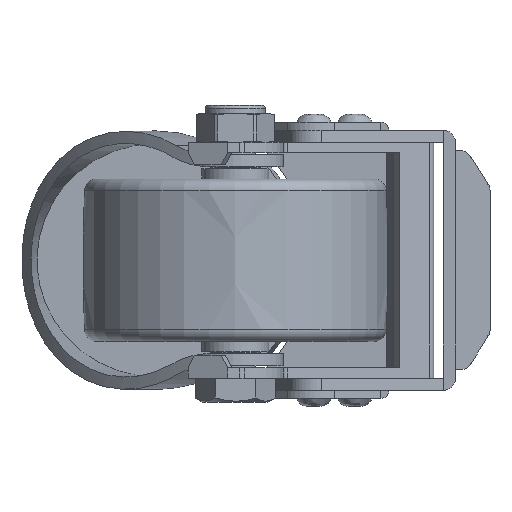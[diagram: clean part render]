
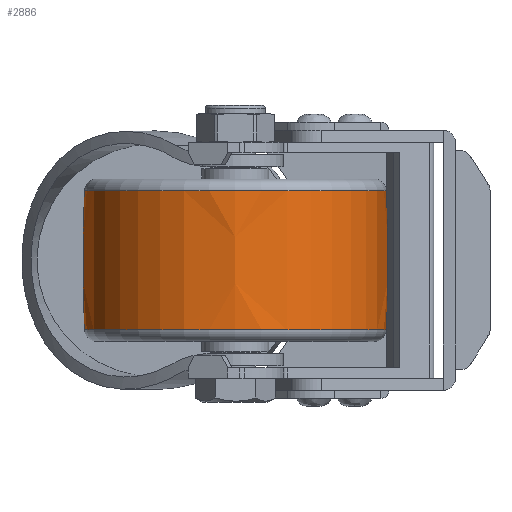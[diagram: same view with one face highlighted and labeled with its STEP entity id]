
A CAD part, front view. The second image highlights one B-rep face of the part: STEP entity #2886.
In plain terms, the highlighted free-form (B-spline) face has degree [3, 3] with [7, 4] control points.
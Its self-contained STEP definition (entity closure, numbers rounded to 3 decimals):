
#2654=CARTESIAN_POINT('',(0.,-362.75,0.));
#2655=DIRECTION('',(0.,0.,1.));
#2656=DIRECTION('',(0.043,0.999,0.));
#2657=AXIS2_PLACEMENT_3D('',#2654,#2655,#2656);
#2659=CARTESIAN_POINT('',(0.,362.75,0.));
#2660=DIRECTION('',(0.,0.,-1.));
#2661=DIRECTION('',(0.043,-0.999,0.));
#2662=AXIS2_PLACEMENT_3D('',#2659,#2660,#2661);
#2664=CARTESIAN_POINT('',(17.128,0.,0.));
#2665=DIRECTION('',(-1.,0.,0.));
#2666=DIRECTION('',(0.,1.,0.));
#2667=AXIS2_PLACEMENT_3D('',#2664,#2665,#2666);
#2689=CARTESIAN_POINT('',(-17.128,0.,0.));
#2690=DIRECTION('',(-1.,0.,0.));
#2691=DIRECTION('',(0.,1.,0.));
#2692=AXIS2_PLACEMENT_3D('',#2689,#2690,#2691);
#2747=CARTESIAN_POINT('',(17.128,37.133,0.));
#2749=VERTEX_POINT('',#2747);
#2750=CARTESIAN_POINT('',(-17.128,37.133,0.));
#2751=VERTEX_POINT('',#2750);
#2763=CARTESIAN_POINT('',(17.128,-37.133,0.));
#2765=VERTEX_POINT('',#2763);
#2766=CARTESIAN_POINT('',(-17.128,-37.133,0.));
#2767=VERTEX_POINT('',#2766);
#2848=CARTESIAN_POINT('',(-17.813,-37.03,
2.33));
#2849=CARTESIAN_POINT('',(-5.942,-37.558,
2.363));
#2850=CARTESIAN_POINT('',(5.942,-37.558,2.363));
#2851=CARTESIAN_POINT('',(17.813,-37.03,2.33));
#2852=CARTESIAN_POINT('',(-17.813,-38.464,
-20.459));
#2853=CARTESIAN_POINT('',(-5.942,-39.012,
-20.75));
#2854=CARTESIAN_POINT('',(5.942,-39.012,
-20.75));
#2855=CARTESIAN_POINT('',(17.813,-38.464,
-20.459));
#2856=CARTESIAN_POINT('',(-17.813,-22.833,
-37.103));
#2857=CARTESIAN_POINT('',(-5.942,-23.159,
-37.632));
#2858=CARTESIAN_POINT('',(5.942,-23.159,
-37.632));
#2859=CARTESIAN_POINT('',(17.813,-22.833,
-37.103));
#2860=CARTESIAN_POINT('',(-17.813,0.,
-37.103));
#2861=CARTESIAN_POINT('',(-5.942,0.,
-37.632));
#2862=CARTESIAN_POINT('',(5.942,0.,
-37.632));
#2863=CARTESIAN_POINT('',(17.813,0.,
-37.103));
#2864=CARTESIAN_POINT('',(-17.813,22.833,
-37.103));
#2865=CARTESIAN_POINT('',(-5.942,23.159,
-37.632));
#2866=CARTESIAN_POINT('',(5.942,23.159,-37.632));
#2867=CARTESIAN_POINT('',(17.813,22.833,-37.103));
#2868=CARTESIAN_POINT('',(-17.813,38.464,
-20.459));
#2869=CARTESIAN_POINT('',(-5.942,39.012,
-20.75));
#2870=CARTESIAN_POINT('',(5.942,39.012,-20.75));
#2871=CARTESIAN_POINT('',(17.813,38.464,-20.459));
#2872=CARTESIAN_POINT('',(-17.813,37.03,2.33));
#2873=CARTESIAN_POINT('',(-5.942,37.558,2.363));
#2874=CARTESIAN_POINT('',(5.942,37.558,2.363));
#2875=CARTESIAN_POINT('',(17.813,37.03,2.33));
#2876=(BOUNDED_SURFACE()B_SPLINE_SURFACE(3,3,((#2848,#2849,#2850,#2851),(#2852,
#2853,#2854,#2855),(#2856,#2857,#2858,#2859),(#2860,#2861,#2862,#2863),(#2864,
#2865,#2866,#2867),(#2868,#2869,#2870,#2871),(#2872,#2873,#2874,#2875)),
.UNSPECIFIED.,.F.,.F.,.F.)B_SPLINE_SURFACE_WITH_KNOTS((4,3,4),(4,4),(0.,1.,
2.),(0.,1.),.UNSPECIFIED.)GEOMETRIC_REPRESENTATION_ITEM()RATIONAL_B_SPLINE_SURFACE(((1.188,1.187,1.187,1.188),(
0.938,0.937,0.937,0.938),(
0.938,0.937,0.937,0.938),(
1.188,1.187,1.187,1.188),(
0.938,0.937,0.937,0.938),(
0.938,0.937,0.937,0.938),(
1.188,1.187,1.187,1.188)))REPRESENTATION_ITEM('')SURFACE());
#2878=ORIENTED_EDGE('',*,*,#2877,.T.);
#2880=ORIENTED_EDGE('',*,*,#2879,.T.);
#2882=ORIENTED_EDGE('',*,*,#2881,.F.);
#2883=ORIENTED_EDGE('',*,*,#2841,.F.);
#2884=EDGE_LOOP('',(#2878,#2880,#2882,#2883));
#2885=FACE_OUTER_BOUND('',#2884,.F.);
#2658=CIRCLE('',#2657,400.25);
#2663=CIRCLE('',#2662,400.25);
#2668=CIRCLE('',#2667,37.133);
#2693=CIRCLE('',#2692,37.133);
#2841=EDGE_CURVE('',#2749,#2765,#2668,.T.);
#2877=EDGE_CURVE('',#2749,#2751,#2658,.T.);
#2879=EDGE_CURVE('',#2751,#2767,#2693,.T.);
#2881=EDGE_CURVE('',#2765,#2767,#2663,.T.);
#2886=ADVANCED_FACE('',(#2885),#2876,.T.);
